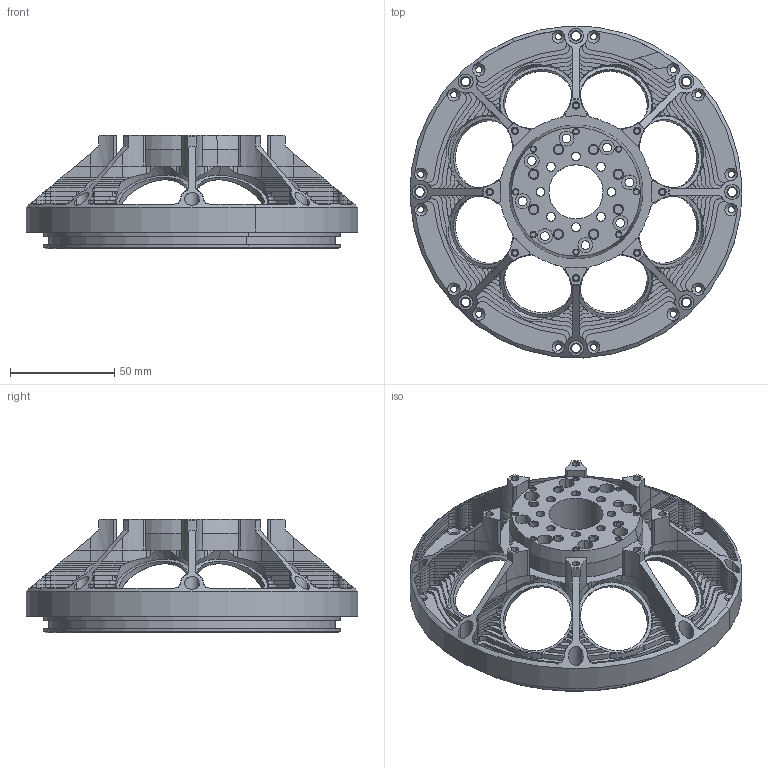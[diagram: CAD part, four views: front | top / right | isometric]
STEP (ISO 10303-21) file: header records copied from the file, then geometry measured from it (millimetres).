
FILE_DESCRIPTION(/* description */ ('(C) Elphel, Inc. 2012. Licensed under CERN OHL v.1.1 or later, see http://ohwr.org/cernohl'),/* implementation_level */ '2;1');
FILE_NAME(/* name */ '0353-19-66C',/* time_stamp */ '2012-06-04T17:25:03-06:00',/* author */ (''),/* organization */ ('Elphel, Inc'),/* preprocessor_version */ 'ST-DEVELOPER v12',/* originating_system */ 'VariCAD 2012-1.04; kernel version (20100102)',/* authorisation */ '');
FILE_SCHEMA (('AUTOMOTIVE_DESIGN'));
Length unit declared in the file: millimetre
Products named in the file (1): Part
Bounding box: 159.45 x 159.45 x 54.5 mm (x, y, z)
Volume: 127227.6 mm3; surface area: 91142.5 mm2
Topology: 33 solids, 33 shells, 2029 faces, 4876 edges, 2948 vertices
Faces by surface type: cylinder 1366, plane 535, cone 128
Entity records: 76505 total; most frequent: CARTESIAN_POINT 14343, DIRECTION 10430, ORIENTED_EDGE 9752, EDGE_CURVE 4876, AXIS2_PLACEMENT_3D 4243, VERTEX_POINT 2948, EDGE_LOOP 2226, CIRCLE 2180
